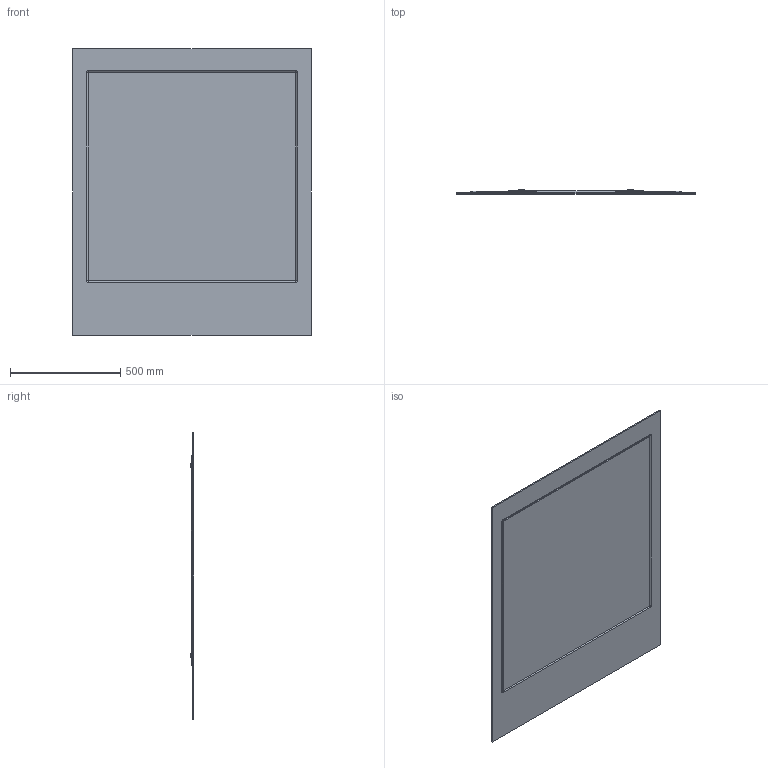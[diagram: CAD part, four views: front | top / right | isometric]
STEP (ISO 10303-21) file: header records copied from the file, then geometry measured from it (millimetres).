
FILE_DESCRIPTION(/* description */ (''),/* implementation_level */ '2;1');
FILE_NAME(/* name */ 'IST108_3D',/* time_stamp */ '2026-06-29T16:55:13+02:00',/* author */ (''),/* organization */ (''),/* preprocessor_version */ 'ST-DEVELOPER v16.5',/* originating_system */ '',/* authorisation */ '');
FILE_SCHEMA (('CONFIG_CONTROL_DESIGN'));
Length unit declared in the file: millimetre
Products named in the file (1): Document
Bounding box: 1080 x 16.61 x 1300 mm (x, y, z)
Volume: 13420801.6 mm3; surface area: 5740803.6 mm2
Topology: 7 solids, 7 shells, 110 faces, 272 edges, 170 vertices
Faces by surface type: plane 90, bspline 20
Entity records: 3080 total; most frequent: CARTESIAN_POINT 1152, ORIENTED_EDGE 528, EDGE_CURVE 264, B_SPLINE_CURVE_WITH_KNOTS 234, VERTEX_POINT 170, EDGE_LOOP 120, ADVANCED_FACE 110, FACE_OUTER_BOUND 110
